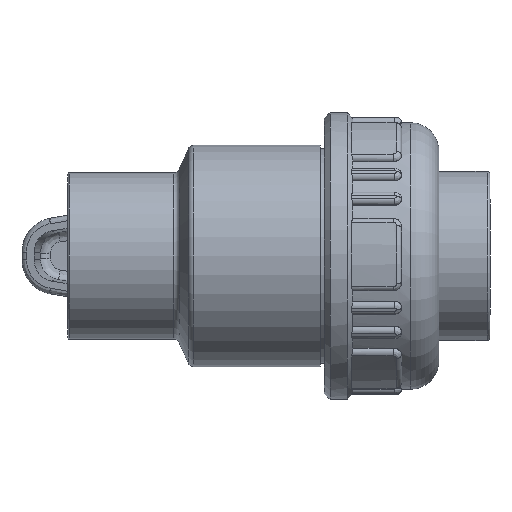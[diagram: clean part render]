
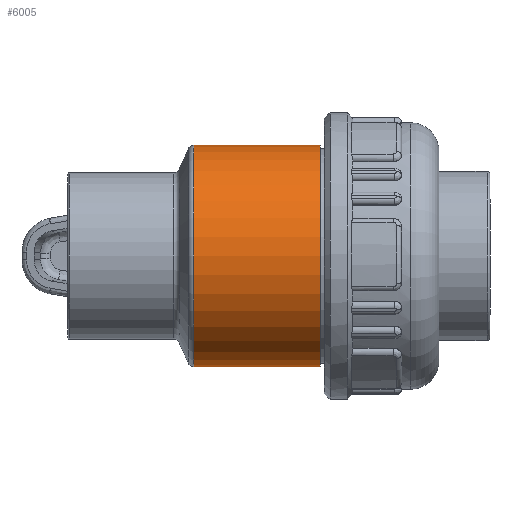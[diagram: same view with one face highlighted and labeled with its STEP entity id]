
A CAD part, left-side view. The second image highlights one B-rep face of the part: STEP entity #6005.
In plain terms, the highlighted cylindrical face has radius 19.3 mm (diameter 38.6 mm), a full revolution.
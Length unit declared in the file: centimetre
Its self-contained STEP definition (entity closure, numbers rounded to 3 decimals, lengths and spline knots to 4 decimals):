
#219=CYLINDRICAL_SURFACE('',#6435,1.93);
#308=FACE_BOUND('',#1094,.T.);
#309=FACE_BOUND('',#1095,.T.);
#392=CIRCLE('',#6431,1.93);
#395=CIRCLE('',#6436,1.93);
#728=FACE_OUTER_BOUND('',#1093,.T.);
#1093=EDGE_LOOP('',(#4106));
#1094=EDGE_LOOP('',(#4107));
#1095=EDGE_LOOP('',(#4108));
#2087=B_SPLINE_CURVE_WITH_KNOTS('',3,(#9576,#9577,#9578,#9579,#9580,#9581,
#9582,#9583,#9584,#9585,#9586,#9587,#9588,#9589,#9590,#9591,#9592,#9593,
#9594),.UNSPECIFIED.,.T.,.F.,(4,1,1,1,1,1,1,1,1,1,1,1,1,1,1,1,4),(-5.8386,
-5.4215,-5.0045,-4.5875,-4.1704,
-3.6144,-3.4754,-3.3363,-3.0583,
-2.7803,-2.5023,-2.0852,-1.6682,
-1.2511,-0.8341,-0.417,0.),
 .UNSPECIFIED.);
#2403=VERTEX_POINT('',#9565);
#2406=VERTEX_POINT('',#9573);
#2407=VERTEX_POINT('',#9575);
#3033=EDGE_CURVE('',#2403,#2403,#392,.T.);
#3036=EDGE_CURVE('',#2406,#2406,#395,.T.);
#3037=EDGE_CURVE('',#2407,#2407,#2087,.T.);
#4106=ORIENTED_EDGE('',*,*,#3036,.T.);
#4107=ORIENTED_EDGE('',*,*,#3037,.F.);
#4108=ORIENTED_EDGE('',*,*,#3033,.F.);
#6005=ADVANCED_FACE('',(#728,#308,#309),#219,.T.);
#6431=AXIS2_PLACEMENT_3D('',#9566,#7256,#7257);
#6435=AXIS2_PLACEMENT_3D('',#9572,#7264,#7265);
#6436=AXIS2_PLACEMENT_3D('',#9574,#7266,#7267);
#7256=DIRECTION('center_axis',(0.,1.,0.));
#7257=DIRECTION('ref_axis',(1.,0.,0.));
#7264=DIRECTION('center_axis',(0.,1.,0.));
#7265=DIRECTION('ref_axis',(-1.,0.,0.));
#7266=DIRECTION('center_axis',(0.,1.,0.));
#7267=DIRECTION('ref_axis',(-1.,0.,0.));
#9565=CARTESIAN_POINT('',(-1.93,1.2158,0.));
#9566=CARTESIAN_POINT('Origin',(0.,1.2158,
0.));
#9572=CARTESIAN_POINT('Origin',(0.,-0.405,0.));
#9573=CARTESIAN_POINT('',(1.93,-0.99,0.));
#9574=CARTESIAN_POINT('Origin',(0.,-0.99,
0.));
#9575=CARTESIAN_POINT('',(1.6714,0.,0.965));
#9576=CARTESIAN_POINT('Ctrl Pts',(1.6712,0.,
0.9651));
#9577=CARTESIAN_POINT('Ctrl Pts',(1.6712,-0.1487,0.9652));
#9578=CARTESIAN_POINT('Ctrl Pts',(1.7139,-0.4463,0.8956));
#9579=CARTESIAN_POINT('Ctrl Pts',(1.8379,-0.788,0.6244));
#9580=CARTESIAN_POINT('Ctrl Pts',(1.9336,-0.9883,0.2282));
#9581=CARTESIAN_POINT('Ctrl Pts',(1.9341,-0.9878,-0.2791));
#9582=CARTESIAN_POINT('Ctrl Pts',(1.8338,-0.7814,-0.6219));
#9583=CARTESIAN_POINT('Ctrl Pts',(1.7576,-0.556,-0.7988));
#9584=CARTESIAN_POINT('Ctrl Pts',(1.7112,-0.3885,-0.895));
#9585=CARTESIAN_POINT('Ctrl Pts',(1.6694,-0.1516,-0.9686));
#9586=CARTESIAN_POINT('Ctrl Pts',(1.6694,0.1516,-0.9687));
#9587=CARTESIAN_POINT('Ctrl Pts',(1.728,0.4834,-0.8653));
#9588=CARTESIAN_POINT('Ctrl Pts',(1.8377,0.7885,-0.6246));
#9589=CARTESIAN_POINT('Ctrl Pts',(1.9338,0.9879,-0.2282));
#9590=CARTESIAN_POINT('Ctrl Pts',(1.9336,0.9881,0.2281));
#9591=CARTESIAN_POINT('Ctrl Pts',(1.8379,0.7881,0.6247));
#9592=CARTESIAN_POINT('Ctrl Pts',(1.7139,0.4462,0.8955));
#9593=CARTESIAN_POINT('Ctrl Pts',(1.6712,0.1488,0.9651));
#9594=CARTESIAN_POINT('Ctrl Pts',(1.6712,0.,
0.9651));
